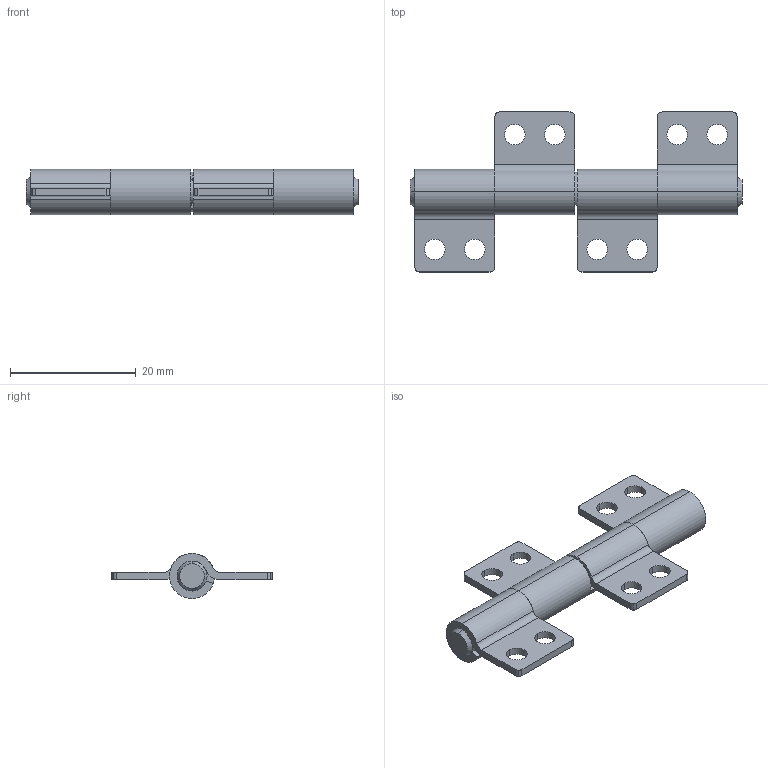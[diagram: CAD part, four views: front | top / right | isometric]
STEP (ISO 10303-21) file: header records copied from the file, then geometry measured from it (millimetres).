
FILE_DESCRIPTION(('STEP AP214'),'1');
FILE_NAME('C:/Users/HAN/Desktop/1000-0002-HNG L Rev 0_0.stp','2012-12-04T03:45:18',(' '),(' '),'Spatial InterOp 3D',' ',' ');
FILE_SCHEMA(('automotive_design'));
Length unit declared in the file: inch
Products named in the file (6): 1000-0001-BND Rev 0_0; 1000-0005-SHA Rev 0_0; Snap Ring 2000-18
Bounding box: 52.7 x 25.4 x 7.16 mm (x, y, z)
Volume: 2497.6 mm3; surface area: 3930.3 mm2
Topology: 6 solids, 6 shells, 120 faces, 314 edges, 208 vertices
Faces by surface type: cylinder 80, plane 36, cone 4
Entity records: 4853 total; most frequent: DIRECTION 730, CARTESIAN_POINT 648, ORIENTED_EDGE 628, EDGE_CURVE 314, AXIS2_PLACEMENT_3D 290, VERTEX_POINT 208, CIRCLE 164, LINE 150
